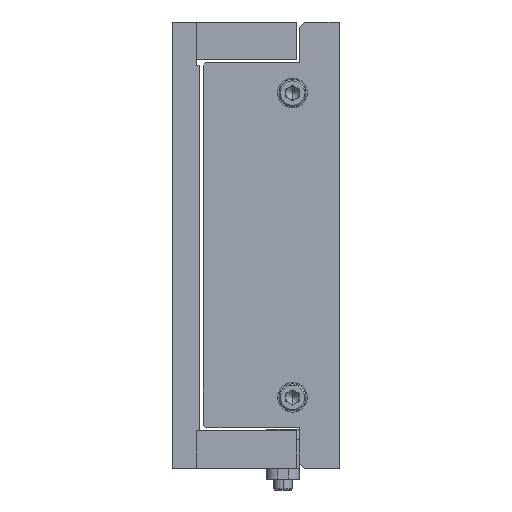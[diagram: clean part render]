
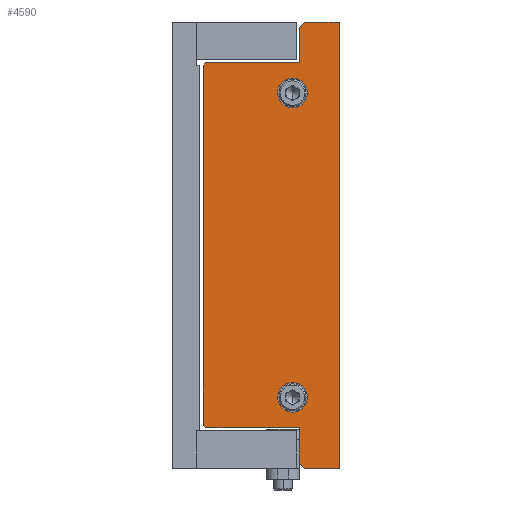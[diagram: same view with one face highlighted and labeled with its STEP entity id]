
A CAD part, left-side view. The second image highlights one B-rep face of the part: STEP entity #4590.
In plain terms, the highlighted planar face has unit normal (-1, 0, 0).
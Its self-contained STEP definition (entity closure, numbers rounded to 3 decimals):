
#662 = DIRECTION ( 'NONE',  ( 0., -0.707, -0.707 ) ) ;
#677 = VERTEX_POINT ( 'NONE', #44179 ) ;
#1293 = ORIENTED_EDGE ( 'NONE', *, *, #13943, .T. ) ;
#2099 = AXIS2_PLACEMENT_3D ( 'NONE', #39975, #27317, #2260 ) ;
#2260 = DIRECTION ( 'NONE',  ( 0., 0., 1. ) ) ;
#3030 = FACE_BOUND ( 'NONE', #11174, .T. ) ;
#3225 = DIRECTION ( 'NONE',  ( -1., 0., 0. ) ) ;
#3359 = DIRECTION ( 'NONE',  ( 0., -0.707, -0.707 ) ) ;
#3899 = VERTEX_POINT ( 'NONE', #7684 ) ;
#4218 = DIRECTION ( 'NONE',  ( 0., -1., 0. ) ) ;
#4590 = ADVANCED_FACE ( 'NONE', ( #3030, #10162, #18656 ), #26290, .F. ) ;
#5395 = DIRECTION ( 'NONE',  ( 0., -1., 0. ) ) ;
#6023 = EDGE_CURVE ( 'NONE', #11209, #22147, #36224, .T. ) ;
#6142 = DIRECTION ( 'NONE',  ( 0., 1., 0. ) ) ;
#7432 = CARTESIAN_POINT ( 'NONE',  ( -165., 15., 80.55 ) ) ;
#7684 = CARTESIAN_POINT ( 'NONE',  ( -165., 15., -67.5 ) ) ;
#7776 = CARTESIAN_POINT ( 'NONE',  ( -165., 0.25, 82.5 ) ) ;
#8339 = LINE ( 'NONE', #7432, #51638 ) ;
#8572 = DIRECTION ( 'NONE',  ( 0., 1., 0. ) ) ;
#8814 = VECTOR ( 'NONE', #36561, 1000. ) ;
#9132 = VECTOR ( 'NONE', #29025, 1000. ) ;
#9621 = CIRCLE ( 'NONE', #52347, 5.5 ) ;
#10162 = FACE_BOUND ( 'NONE', #53260, .T. ) ;
#10411 = AXIS2_PLACEMENT_3D ( 'NONE', #30497, #26102, #21484 ) ;
#10515 = ORIENTED_EDGE ( 'NONE', *, *, #29687, .T. ) ;
#10852 = CARTESIAN_POINT ( 'NONE',  ( -165., 15., 67.5 ) ) ;
#10885 = VERTEX_POINT ( 'NONE', #11933 ) ;
#11174 = EDGE_LOOP ( 'NONE', ( #25331, #53926 ) ) ;
#11209 = VERTEX_POINT ( 'NONE', #40103 ) ;
#11240 = LINE ( 'NONE', #7776, #21690 ) ;
#11741 = CARTESIAN_POINT ( 'NONE',  ( -165., 50.5, 66.5 ) ) ;
#11933 = CARTESIAN_POINT ( 'NONE',  ( -165., 15., -80.55 ) ) ;
#13943 = EDGE_CURVE ( 'NONE', #22801, #3899, #44187, .T. ) ;
#14756 = EDGE_CURVE ( 'NONE', #677, #35349, #41496, .T. ) ;
#14782 = DIRECTION ( 'NONE',  ( -1., 0., 0. ) ) ;
#15731 = EDGE_CURVE ( 'NONE', #27189, #22801, #47834, .T. ) ;
#15776 = CIRCLE ( 'NONE', #16637, 5.5 ) ;
#15811 = CIRCLE ( 'NONE', #46780, 5.5 ) ;
#16266 = VECTOR ( 'NONE', #3359, 1000. ) ;
#16322 = CARTESIAN_POINT ( 'NONE',  ( -165., 49.5, -67.5 ) ) ;
#16637 = AXIS2_PLACEMENT_3D ( 'NONE', #36365, #3225, #19450 ) ;
#16692 = EDGE_CURVE ( 'NONE', #28763, #11209, #8339, .T. ) ;
#17191 = CARTESIAN_POINT ( 'NONE',  ( -165., 17.5, 56.25 ) ) ;
#18301 = VECTOR ( 'NONE', #32027, 1000. ) ;
#18583 = CARTESIAN_POINT ( 'NONE',  ( -165., 49.5, 67.5 ) ) ;
#18656 = FACE_OUTER_BOUND ( 'NONE', #26444, .T. ) ;
#19450 = DIRECTION ( 'NONE',  ( 0., 0., 1. ) ) ;
#21384 = DIRECTION ( 'NONE',  ( 0., 0., 1. ) ) ;
#21484 = DIRECTION ( 'NONE',  ( 0., 0., -1. ) ) ;
#21690 = VECTOR ( 'NONE', #28694, 1000. ) ;
#22147 = VERTEX_POINT ( 'NONE', #10852 ) ;
#22735 = CARTESIAN_POINT ( 'NONE',  ( -165., 17.5, 50.75 ) ) ;
#22801 = VERTEX_POINT ( 'NONE', #41275 ) ;
#23746 = EDGE_CURVE ( 'NONE', #37280, #46360, #9621, .T. ) ;
#23782 = ORIENTED_EDGE ( 'NONE', *, *, #48933, .T. ) ;
#23804 = EDGE_CURVE ( 'NONE', #32540, #44997, #41803, .T. ) ;
#24817 = VECTOR ( 'NONE', #662, 1000. ) ;
#25030 = CARTESIAN_POINT ( 'NONE',  ( -165., 0.25, 82.5 ) ) ;
#25062 = CARTESIAN_POINT ( 'NONE',  ( -165., 13.05, 82.5 ) ) ;
#25118 = ORIENTED_EDGE ( 'NONE', *, *, #40697, .T. ) ;
#25331 = ORIENTED_EDGE ( 'NONE', *, *, #14756, .F. ) ;
#25677 = VERTEX_POINT ( 'NONE', #25030 ) ;
#25771 = ORIENTED_EDGE ( 'NONE', *, *, #15731, .T. ) ;
#26096 = EDGE_CURVE ( 'NONE', #44997, #25677, #11240, .T. ) ;
#26102 = DIRECTION ( 'NONE',  ( 1., 0., 0. ) ) ;
#26290 = PLANE ( 'NONE',  #10411 ) ;
#26444 = EDGE_LOOP ( 'NONE', ( #35051, #23782, #27918, #42723, #38377, #10515, #53745, #25771, #1293, #38715, #25118, #37907 ) ) ;
#27189 = VERTEX_POINT ( 'NONE', #37733 ) ;
#27317 = DIRECTION ( 'NONE',  ( -1., 0., 0. ) ) ;
#27832 = CARTESIAN_POINT ( 'NONE',  ( -165., 17.5, 56.25 ) ) ;
#27918 = ORIENTED_EDGE ( 'NONE', *, *, #16692, .T. ) ;
#27968 = EDGE_CURVE ( 'NONE', #42184, #27189, #35090, .T. ) ;
#28508 = VERTEX_POINT ( 'NONE', #48827 ) ;
#28694 = DIRECTION ( 'NONE',  ( 0., 0., 1. ) ) ;
#28763 = VERTEX_POINT ( 'NONE', #29494 ) ;
#28821 = LINE ( 'NONE', #33434, #9132 ) ;
#29008 = CARTESIAN_POINT ( 'NONE',  ( -165., 17.5, 61.75 ) ) ;
#29025 = DIRECTION ( 'NONE',  ( 0., 0.707, -0.707 ) ) ;
#29494 = CARTESIAN_POINT ( 'NONE',  ( -165., 13.05, 82.5 ) ) ;
#29512 = LINE ( 'NONE', #30938, #18301 ) ;
#29687 = EDGE_CURVE ( 'NONE', #28508, #42184, #28821, .T. ) ;
#29770 = ORIENTED_EDGE ( 'NONE', *, *, #23746, .F. ) ;
#30497 = CARTESIAN_POINT ( 'NONE',  ( -165., 0., 0. ) ) ;
#30571 = CARTESIAN_POINT ( 'NONE',  ( -165., 13.05, -82.5 ) ) ;
#30938 = CARTESIAN_POINT ( 'NONE',  ( -165., 15., -80.55 ) ) ;
#31203 = DIRECTION ( 'NONE',  ( 0., 0., -1. ) ) ;
#32027 = DIRECTION ( 'NONE',  ( 0., 0., -1. ) ) ;
#32540 = VERTEX_POINT ( 'NONE', #30571 ) ;
#33434 = CARTESIAN_POINT ( 'NONE',  ( -165., 50.5, 66.5 ) ) ;
#34243 = VECTOR ( 'NONE', #6142, 1000. ) ;
#35051 = ORIENTED_EDGE ( 'NONE', *, *, #26096, .T. ) ;
#35090 = LINE ( 'NONE', #36366, #8814 ) ;
#35349 = VERTEX_POINT ( 'NONE', #40174 ) ;
#35551 = LINE ( 'NONE', #18583, #34243 ) ;
#36191 = CARTESIAN_POINT ( 'NONE',  ( -165., 0.25, -82.5 ) ) ;
#36224 = LINE ( 'NONE', #38939, #46118 ) ;
#36365 = CARTESIAN_POINT ( 'NONE',  ( -165., 17.5, -56.25 ) ) ;
#36366 = CARTESIAN_POINT ( 'NONE',  ( -165., 50.5, -66.5 ) ) ;
#36561 = DIRECTION ( 'NONE',  ( 0., 0., -1. ) ) ;
#37022 = EDGE_CURVE ( 'NONE', #35349, #677, #15776, .T. ) ;
#37280 = VERTEX_POINT ( 'NONE', #29008 ) ;
#37733 = CARTESIAN_POINT ( 'NONE',  ( -165., 50.5, -66.5 ) ) ;
#37907 = ORIENTED_EDGE ( 'NONE', *, *, #23804, .T. ) ;
#38377 = ORIENTED_EDGE ( 'NONE', *, *, #49691, .T. ) ;
#38657 = LINE ( 'NONE', #43114, #24817 ) ;
#38715 = ORIENTED_EDGE ( 'NONE', *, *, #50993, .T. ) ;
#38939 = CARTESIAN_POINT ( 'NONE',  ( -165., 15., 67.5 ) ) ;
#39336 = CARTESIAN_POINT ( 'NONE',  ( -165., 15., -67.5 ) ) ;
#39975 = CARTESIAN_POINT ( 'NONE',  ( -165., 17.5, -56.25 ) ) ;
#40103 = CARTESIAN_POINT ( 'NONE',  ( -165., 15., 80.55 ) ) ;
#40174 = CARTESIAN_POINT ( 'NONE',  ( -165., 17.5, -61.75 ) ) ;
#40249 = VECTOR ( 'NONE', #5395, 1000. ) ;
#40298 = LINE ( 'NONE', #25062, #46215 ) ;
#40697 = EDGE_CURVE ( 'NONE', #10885, #32540, #38657, .T. ) ;
#41275 = CARTESIAN_POINT ( 'NONE',  ( -165., 49.5, -67.5 ) ) ;
#41496 = CIRCLE ( 'NONE', #2099, 5.5 ) ;
#41803 = LINE ( 'NONE', #50757, #54271 ) ;
#42184 = VERTEX_POINT ( 'NONE', #11741 ) ;
#42723 = ORIENTED_EDGE ( 'NONE', *, *, #6023, .T. ) ;
#43114 = CARTESIAN_POINT ( 'NONE',  ( -165., 13.05, -82.5 ) ) ;
#44179 = CARTESIAN_POINT ( 'NONE',  ( -165., 17.5, -50.75 ) ) ;
#44187 = LINE ( 'NONE', #39336, #40249 ) ;
#44527 = DIRECTION ( 'NONE',  ( 0., 0., 1. ) ) ;
#44997 = VERTEX_POINT ( 'NONE', #36191 ) ;
#46118 = VECTOR ( 'NONE', #31203, 1000. ) ;
#46215 = VECTOR ( 'NONE', #8572, 1000. ) ;
#46360 = VERTEX_POINT ( 'NONE', #22735 ) ;
#46780 = AXIS2_PLACEMENT_3D ( 'NONE', #27832, #14782, #44527 ) ;
#47834 = LINE ( 'NONE', #16322, #16266 ) ;
#48827 = CARTESIAN_POINT ( 'NONE',  ( -165., 49.5, 67.5 ) ) ;
#48933 = EDGE_CURVE ( 'NONE', #25677, #28763, #40298, .T. ) ;
#49481 = DIRECTION ( 'NONE',  ( 0., 0.707, -0.707 ) ) ;
#49691 = EDGE_CURVE ( 'NONE', #22147, #28508, #35551, .T. ) ;
#50241 = EDGE_CURVE ( 'NONE', #46360, #37280, #15811, .T. ) ;
#50255 = DIRECTION ( 'NONE',  ( -1., 0., 0. ) ) ;
#50757 = CARTESIAN_POINT ( 'NONE',  ( -165., 0.25, -82.5 ) ) ;
#50993 = EDGE_CURVE ( 'NONE', #3899, #10885, #29512, .T. ) ;
#51638 = VECTOR ( 'NONE', #49481, 1000. ) ;
#52347 = AXIS2_PLACEMENT_3D ( 'NONE', #17191, #50255, #21384 ) ;
#52665 = ORIENTED_EDGE ( 'NONE', *, *, #50241, .F. ) ;
#53260 = EDGE_LOOP ( 'NONE', ( #29770, #52665 ) ) ;
#53745 = ORIENTED_EDGE ( 'NONE', *, *, #27968, .T. ) ;
#53926 = ORIENTED_EDGE ( 'NONE', *, *, #37022, .F. ) ;
#54271 = VECTOR ( 'NONE', #4218, 1000. ) ;
